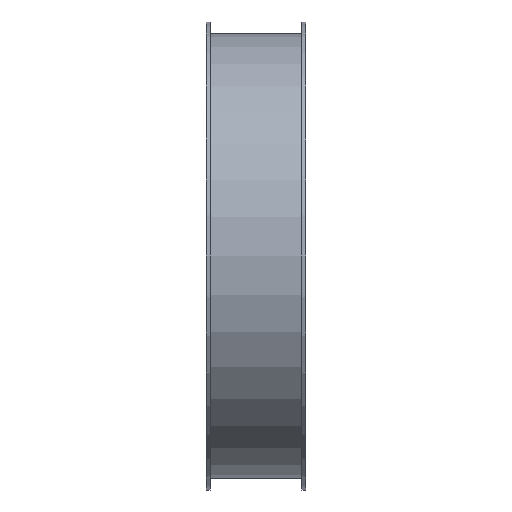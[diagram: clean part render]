
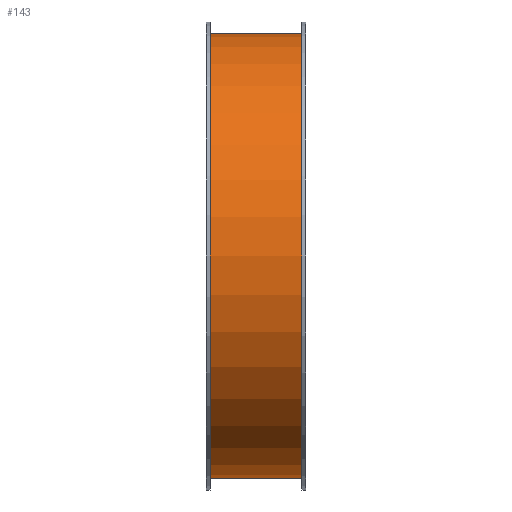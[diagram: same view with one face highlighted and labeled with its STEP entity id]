
A CAD part, front view. The second image highlights one B-rep face of the part: STEP entity #143.
In plain terms, the highlighted cylindrical face has radius 111.5 mm (diameter 223 mm), a full revolution.
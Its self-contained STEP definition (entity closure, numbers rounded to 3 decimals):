
#112=CARTESIAN_POINT('',(16.119,2.817,0.0));
#113=VERTEX_POINT('',#112);
#114=CARTESIAN_POINT('',(16.119,114.317,0.0));
#115=DIRECTION('',(-1.0,0.0,0.0));
#116=DIRECTION('',(0.0,-1.0,0.0));
#117=AXIS2_PLACEMENT_3D('',#114,#115,#116);
#118=CIRCLE('',#117,111.5);
#119=EDGE_CURVE('',#113,#113,#118,.T.);
#124=CARTESIAN_POINT('',(-6.881,114.317,0.0));
#125=DIRECTION('',(-1.0,0.,0.0));
#126=DIRECTION('',(0.0,-1.0,0.0));
#127=AXIS2_PLACEMENT_3D('',#124,#125,#126);
#128=CYLINDRICAL_SURFACE('',#127,111.5);
#129=CARTESIAN_POINT('',(-29.881,2.817,0.0));
#130=VERTEX_POINT('',#129);
#131=CARTESIAN_POINT('',(-29.881,114.317,0.0));
#132=DIRECTION('',(-1.0,0.0,0.0));
#133=DIRECTION('',(0.0,-1.0,0.0));
#134=AXIS2_PLACEMENT_3D('',#131,#132,#133);
#135=CIRCLE('',#134,111.5);
#136=EDGE_CURVE('',#130,#130,#135,.T.);
#137=ORIENTED_EDGE('',*,*,#136,.F.);
#138=EDGE_LOOP('',(#137));
#139=FACE_OUTER_BOUND('',#138,.T.);
#140=ORIENTED_EDGE('',*,*,#119,.T.);
#141=EDGE_LOOP('',(#140));
#142=FACE_BOUND('',#141,.T.);
#143=ADVANCED_FACE('',(#139,#142),#128,.T.);
